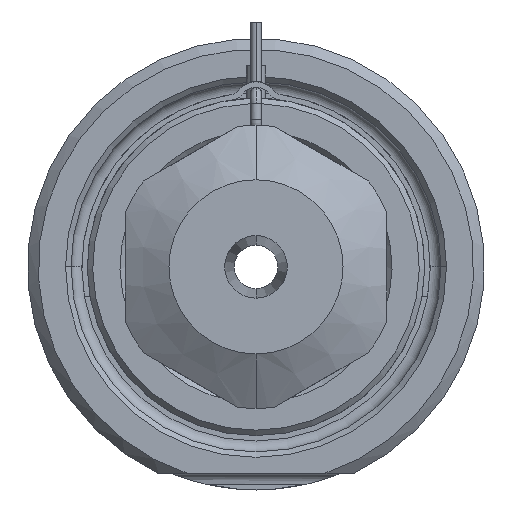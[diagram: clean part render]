
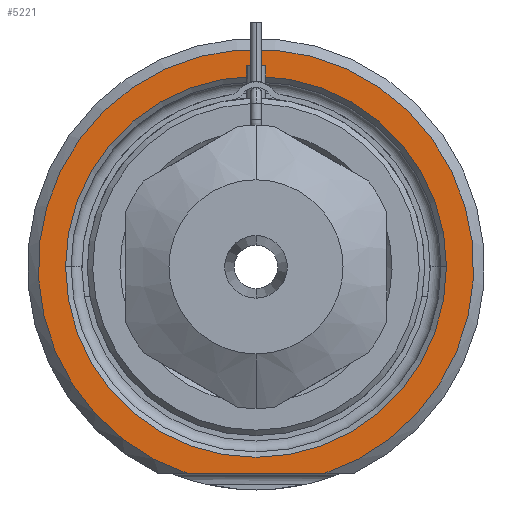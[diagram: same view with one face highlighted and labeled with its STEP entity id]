
A CAD part, front view. The second image highlights one B-rep face of the part: STEP entity #5221.
In plain terms, the highlighted planar face has unit normal (0, -1, 0).
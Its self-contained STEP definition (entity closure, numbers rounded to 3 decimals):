
#1601=DIRECTION('',(1.,0.,0.));
#1602=VECTOR('',#1601,12.49);
#1603=CARTESIAN_POINT('',(-6.245,0.,-19.));
#1604=LINE('',#1603,#1602);
#1605=CARTESIAN_POINT('',(0.,0.,0.));
#1606=DIRECTION('',(0.,1.,0.));
#1607=DIRECTION('',(-1.,0.,0.));
#1608=AXIS2_PLACEMENT_3D('',#1605,#1606,#1607);
#1610=CARTESIAN_POINT('',(0.,0.,0.));
#1611=DIRECTION('',(0.,1.,0.));
#1612=DIRECTION('',(1.,0.,0.));
#1613=AXIS2_PLACEMENT_3D('',#1610,#1611,#1612);
#1719=CARTESIAN_POINT('',(0.,0.,0.));
#1720=DIRECTION('',(0.,-1.,0.));
#1721=DIRECTION('',(0.312,0.,-0.95));
#1722=AXIS2_PLACEMENT_3D('',#1719,#1720,#1721);
#2821=CARTESIAN_POINT('',(-17.5,0.,0.));
#2822=CARTESIAN_POINT('',(17.5,0.,0.));
#2823=VERTEX_POINT('',#2821);
#2824=VERTEX_POINT('',#2822);
#2865=CARTESIAN_POINT('',(-6.245,0.,-19.));
#2866=CARTESIAN_POINT('',(6.245,0.,-19.));
#2867=VERTEX_POINT('',#2865);
#2868=VERTEX_POINT('',#2866);
#5205=CARTESIAN_POINT('',(0.,0.,0.));
#5206=DIRECTION('',(0.,-1.,0.));
#5207=DIRECTION('',(1.,0.,0.));
#5208=AXIS2_PLACEMENT_3D('',#5205,#5206,#5207);
#5209=PLANE('',#5208);
#5211=ORIENTED_EDGE('',*,*,#5210,.F.);
#5213=ORIENTED_EDGE('',*,*,#5212,.F.);
#5214=EDGE_LOOP('',(#5211,#5213));
#5215=FACE_OUTER_BOUND('',#5214,.F.);
#5216=ORIENTED_EDGE('',*,*,#5195,.F.);
#5218=ORIENTED_EDGE('',*,*,#5217,.F.);
#5219=EDGE_LOOP('',(#5216,#5218));
#5220=FACE_BOUND('',#5219,.F.);
#5221=ADVANCED_FACE('',(#5215,#5220),#5209,.T.);
#1609=CIRCLE('',#1608,17.5);
#1614=CIRCLE('',#1613,17.5);
#1723=CIRCLE('',#1722,20.);
#5195=EDGE_CURVE('',#2823,#2824,#1609,.T.);
#5210=EDGE_CURVE('',#2867,#2868,#1604,.T.);
#5212=EDGE_CURVE('',#2868,#2867,#1723,.T.);
#5217=EDGE_CURVE('',#2824,#2823,#1614,.T.);
